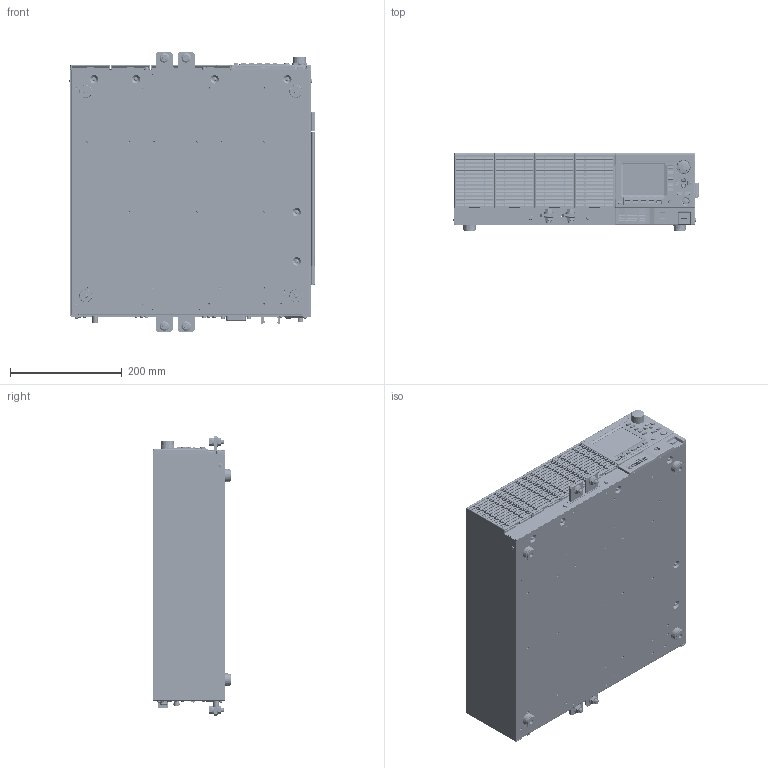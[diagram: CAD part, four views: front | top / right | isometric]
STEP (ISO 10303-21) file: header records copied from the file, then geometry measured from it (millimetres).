
FILE_DESCRIPTION(('Creo Elements/Direct Modeling STEP Export'),'2;1');
FILE_NAME('20200720_K04609S_SFL500-36-1K.stp','2020-07-20T21:17:11',(''),(''),'PTC Creo Elements/Direct Modeling STEP processor for AP214 (Solid Model)','PTC Creo Elements/Direct Modeling 19.0D 23-Nov-2015 (C) Parametric Technology GmbH','');
FILE_SCHEMA(('AUTOMOTIVE_DESIGN { 1 0 10303 214 1 1 1 1 }'));
Length unit declared in the file: millimetre
Products named in the file (152): CN4_TYC_5557560-1.1; SW_E-SW_5J-BUTTON.1; CN101_JST_UBBS-4R-D14-4D.1; SW1_NIK_MS-22AAV1.1; CN2_OSD_OCN-065-7P.1; 基板; スナップホールプラグ_SPH-500; シール; XBB-L_67_9764-22; nut; CN_MuC_XBB-L_67_9764-23; コネクタ; SW__NAT_AJ7200; スイッチ; IL_EDK_AC-P03CS05; インレット; 電気部品; 前裏パネル; ツマミ; 絶縁板_1000.1; ダクトステー; NT_KOM_HK-M3-2.3; KN_KOM_HK-M5-2; カシメナット; シャーシ; SP_KOM_CK-M4-8.4; SP_KOM_CK-M3-8.9; SP_KOM_CK-M3-11.3; セルフクリンチングスペーサー; 遮断ステー; 端子バーF_180.1; 端子バーR_180.1; 端子バー; カバー; 通気パネル.2; ラバースイッチ; 前パネル; LCD成型品; オプションブランク; FL_BRI_エバーライトSF_HB-13-5t.2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
Assembly tree (328 placements, depth 9):
  SFL500-36-1000
    オプション
      K04604S_LX-OP01_GPIB_OEM
        IEEEシール
        電気部品
          K-20248B_GPIB基板
            BOARD_PART
            PROF
            実装部品
              コネクタ
                CN5
                  CN5_JST_XHP-6
                  CN5_JST_B6B-XH-A
                CN4_OMR_XG4A-1639-A
                CN3_DDK_57LE-20240-7700D35G-CA
                CN2_JAE_TX24-50R-LT-H1E-R2
              PARTS
                U2
                U4  x2
                F3  x4
                PC10  x14
                U7  x2
                C31  x3
                L2  x2
                FU1
                C25
                U9  x3
                Q2  x2
                C26
                D2  x2
                L3  x2
                TP3  x5
                D9  x14
                U1
                L11
                L14  x4
                C34  x3
        機構部品
          ネジ
            ナットM2.6  x2
            M2.6×20小Wセムス  x2
            ナベネジ_M3×6小Wセムス.4  x6
            ナベM3×8小Wセムス  x4
        加工部品
          GPIBシャーシ
            スペーサー
              SP_KOM_CK-M3-5  x6
            シャーシ
      K04605S_LX-OP02_RC02_OEM
        ナベM3×8小Wセムス.9  x2
        CN_MuC_XBB-L_67_9764-22
          nut
          XBB-L_67_9764-22
    CE自己宣言書向けラベル
    後パネル_1000C
      カシメナット
        NT_KOM_HKS-M3-2  x5
      後パネル_1000C
    前裏パネル_シート1000C
    後パネル1000C_シールassy
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Bounding box: 438.3 x 140.2 x 499 mm (x, y, z)
Volume: 1573928.4 mm3; surface area: 2075821.1 mm2
Topology: 285 solids, 293 shells, 26648 faces, 86601 edges, 62123 vertices
Faces by surface type: plane 19980, cylinder 4350, cone 914, bspline 667, torus 611, sphere 78, extrusion 48
Entity records: 891169 total; most frequent: CARTESIAN_POINT 219267, ORIENTED_EDGE 149906, DIRECTION 117056, EDGE_CURVE 74953, VECTOR 65440, LINE 65413, VERTEX_POINT 54932, AXIS2_PLACEMENT_3D 25808
